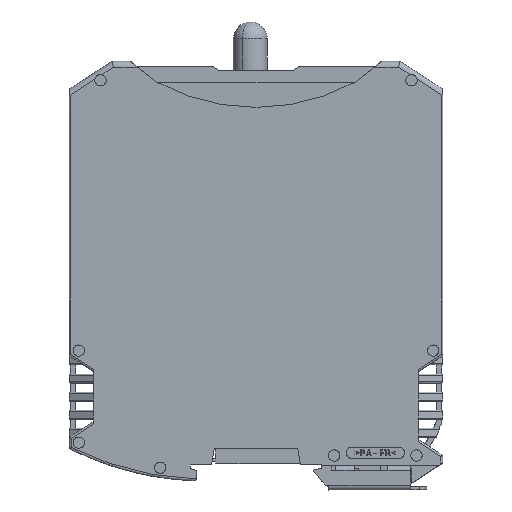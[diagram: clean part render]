
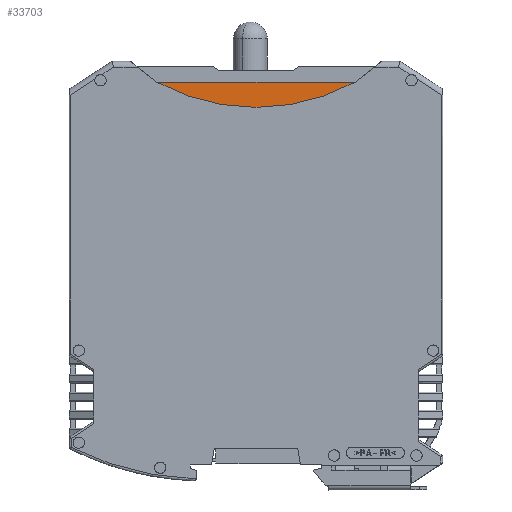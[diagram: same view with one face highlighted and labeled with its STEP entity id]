
A CAD part, left-side view. The second image highlights one B-rep face of the part: STEP entity #33703.
In plain terms, the highlighted planar face has unit normal (-1, 0, 0).
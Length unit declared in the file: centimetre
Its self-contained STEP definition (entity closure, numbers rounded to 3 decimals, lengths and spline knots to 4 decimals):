
#13945 = EDGE_LOOP ( 'NONE', ( #81315, #86451 ) ) ;
#23781 = LINE ( 'NONE', #37963, #108012 ) ;
#26521 = EDGE_CURVE ( 'NONE', #54110, #105452, #23781, .T. ) ;
#33703 = ADVANCED_FACE ( 'NONE', ( #90847 ), #63325, .T. ) ;
#37963 = CARTESIAN_POINT ( 'NONE',  ( -1.11, 0.9818, 9.725 ) ) ;
#41133 = CARTESIAN_POINT ( 'NONE',  ( -1.11, -2.6281, 9.725 ) ) ;
#43499 = DIRECTION ( 'NONE',  ( -1., 0., 0. ) ) ;
#51785 = CIRCLE ( 'NONE', #130910, 5.4893 ) ;
#52620 = CARTESIAN_POINT ( 'NONE',  ( -1.11, 0., 14.5443 ) ) ;
#53079 = DIRECTION ( 'NONE',  ( 0., -1., 0. ) ) ;
#54110 = VERTEX_POINT ( 'NONE', #41133 ) ;
#63325 = PLANE ( 'NONE',  #134098 ) ;
#63449 = DIRECTION ( 'NONE',  ( -1., 0., 0. ) ) ;
#81315 = ORIENTED_EDGE ( 'NONE', *, *, #26521, .T. ) ;
#86451 = ORIENTED_EDGE ( 'NONE', *, *, #89364, .T. ) ;
#89364 = EDGE_CURVE ( 'NONE', #105452, #54110, #51785, .T. ) ;
#90847 = FACE_OUTER_BOUND ( 'NONE', #13945, .T. ) ;
#98446 = DIRECTION ( 'NONE',  ( 0., -1., 0. ) ) ;
#105452 = VERTEX_POINT ( 'NONE', #131252 ) ;
#108012 = VECTOR ( 'NONE', #113199, 100. ) ;
#113199 = DIRECTION ( 'NONE',  ( 0., 1., 0. ) ) ;
#119182 = CARTESIAN_POINT ( 'NONE',  ( -1.11, 0.9818, 9.5079 ) ) ;
#130910 = AXIS2_PLACEMENT_3D ( 'NONE', #52620, #63449, #53079 ) ;
#131252 = CARTESIAN_POINT ( 'NONE',  ( -1.11, 2.6281, 9.725 ) ) ;
#134098 = AXIS2_PLACEMENT_3D ( 'NONE', #119182, #43499, #98446 ) ;
